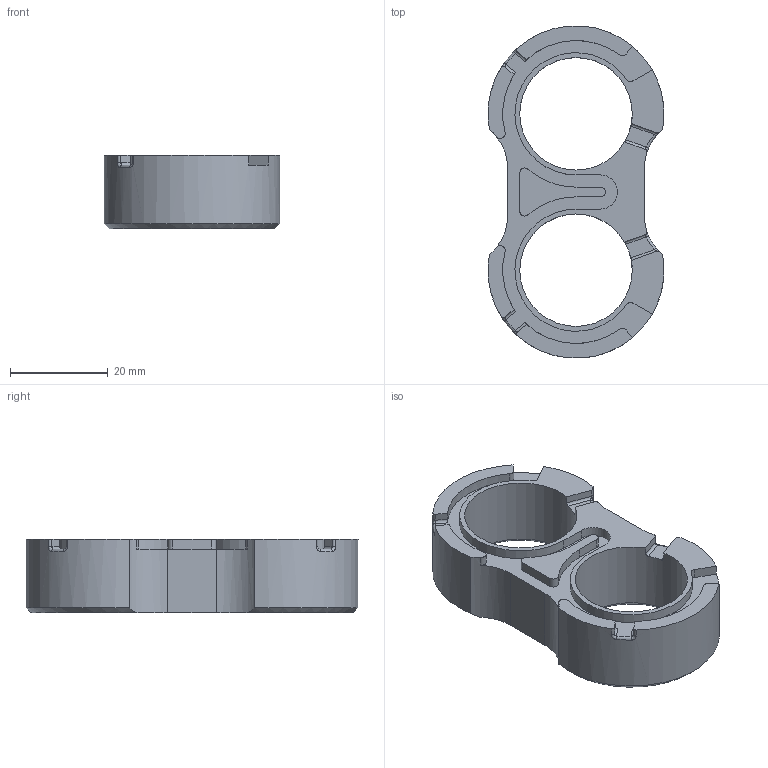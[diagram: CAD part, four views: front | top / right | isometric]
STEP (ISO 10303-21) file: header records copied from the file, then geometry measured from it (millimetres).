
FILE_DESCRIPTION(/* description */ (''),/* implementation_level */ '2;1');
FILE_NAME(/* name */ '',/* time_stamp */ '2026-08-26T18:22:49+09:00',/* author */ ('jhkim'),/* organization */ (''),/* preprocessor_version */ 'ST-DEVELOPER v20.1',/* originating_system */ 'Autodesk Inventor 2027',/* authorisation */ '');
FILE_SCHEMA (('AUTOMOTIVE_DESIGN { 1 0 10303 214 3 1 1 }'));
Length unit declared in the file: millimetre
Products named in the file (1): 가이드 블록
Bounding box: 36 x 67.93 x 15 mm (x, y, z)
Volume: 16423.3 mm3; surface area: 7526.1 mm2
Topology: 1 solids, 1 shells, 87 faces, 240 edges, 154 vertices
Faces by surface type: cylinder 42, plane 29, bspline 8, cone 4, torus 4
Full cylindrical faces by diameter (mm): 23 x2
Entity records: 3130 total; most frequent: CARTESIAN_POINT 849, ORIENTED_EDGE 480, DIRECTION 474, EDGE_CURVE 240, AXIS2_PLACEMENT_3D 182, VERTEX_POINT 154, LINE 110, VECTOR 110
